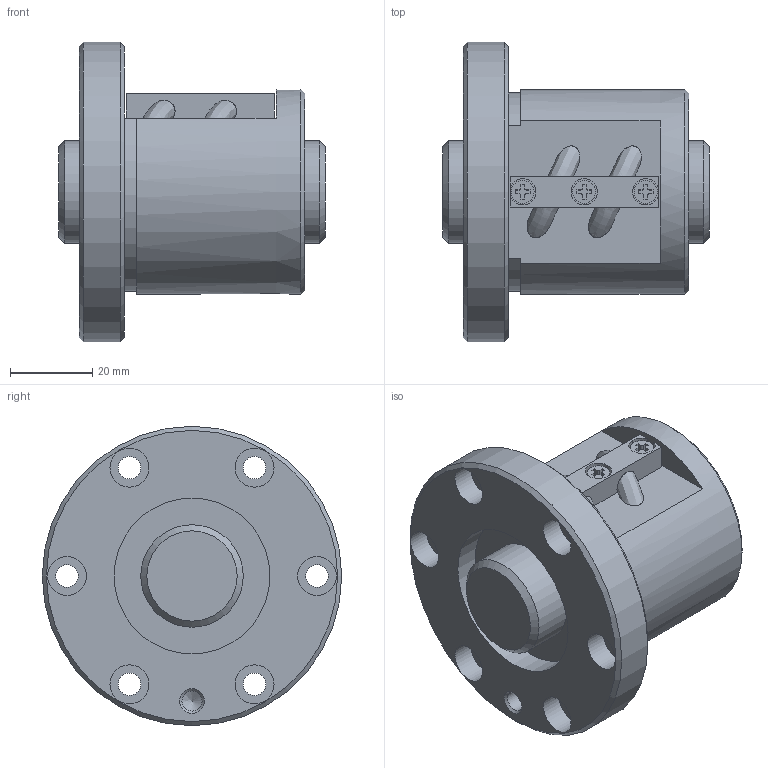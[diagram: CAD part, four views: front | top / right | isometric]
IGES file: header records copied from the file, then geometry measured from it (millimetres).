
Start section: Data from Parasolid IGES Translator 26.0.171, Copyright(c) 2006 Siemens PLM Software. All Rights Reserved.
Global section: file name: SBN2505V-5G0+65LC0(0000).igs; native system: By Siemens PLM Incorporated; preprocessor: XPlus GENERIC/IGES 26.0.171; author: Noname; organization: Noname; date: 20240528.102430; units: millimetre
Bounding box: 65 x 73 x 73 mm (x, y, z)
Surface area: 29874.8 mm2 (no closed solid volume)
Topology: 0 solids, 0 shells, 124 faces, 603 edges, 554 vertices
Faces by surface type: extrusion 69, revolution 55
